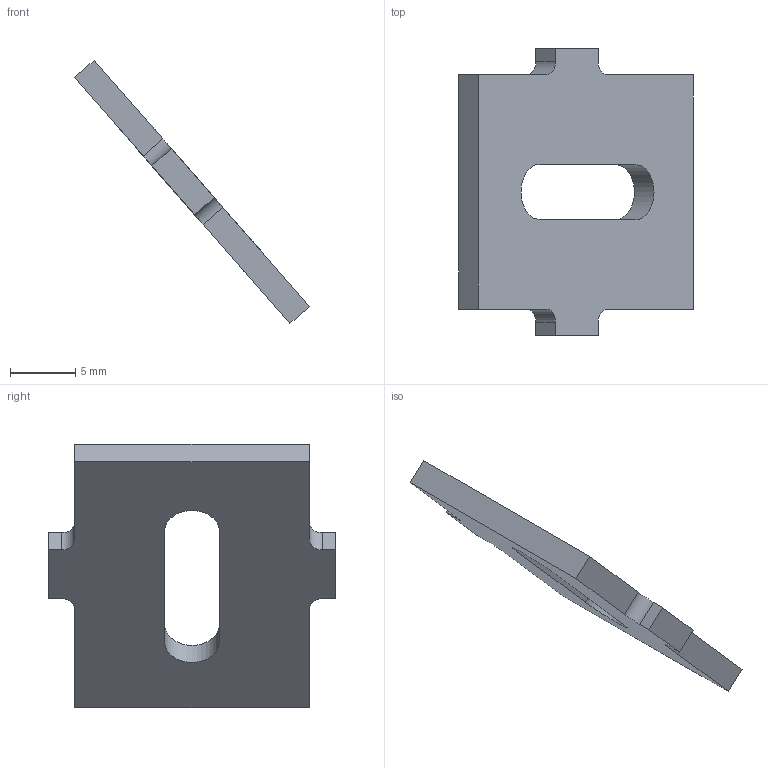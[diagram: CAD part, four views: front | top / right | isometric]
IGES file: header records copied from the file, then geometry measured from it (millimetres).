
Start section: START RECORD GO HERE.
Global section: file name: FR_11001_10 (Frame Throttle).igs; native system: IBM CATIA IGES - CATIA Version 5 Release 19 ; preprocessor: CATIA Version 5 Release 19 ; author: jacqu; organization: ASUS-TUF-JACQUE; date: 20200226.091458; units: millimetre
Bounding box: 18.03 x 22 x 20.21 mm (x, y, z)
Surface area: 1079.3 mm2 (no closed solid volume)
Topology: 0 solids, 0 shells, 22 faces, 120 edges, 120 vertices
Faces by surface type: plane 16, revolution 6
